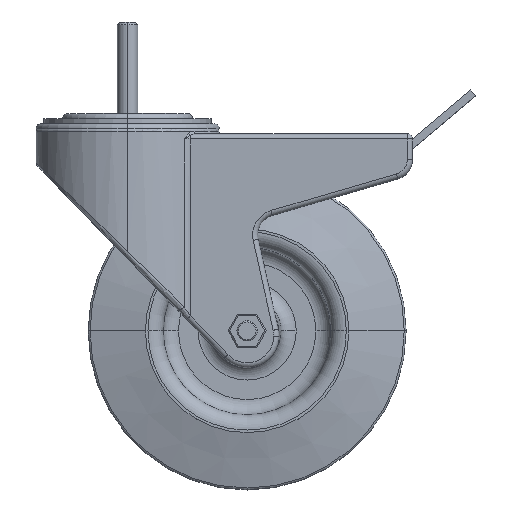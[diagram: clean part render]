
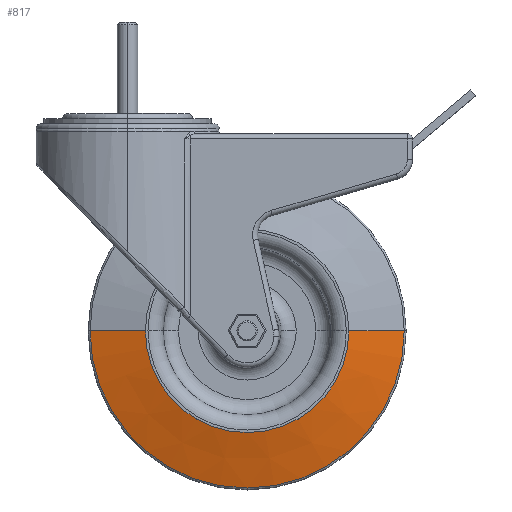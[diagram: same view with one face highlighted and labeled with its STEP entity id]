
A CAD part, top view. The second image highlights one B-rep face of the part: STEP entity #817.
In plain terms, the highlighted conical face has half-angle 74.525 degrees and reference radius 61.767 mm.
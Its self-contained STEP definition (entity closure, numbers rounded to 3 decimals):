
#191 = DIRECTION ( 'NONE',  ( 0., 0., -1. ) ) ;
#347 = AXIS2_PLACEMENT_3D ( 'NONE', #1570, #1038, #4577 ) ;
#539 = CARTESIAN_POINT ( 'NONE',  ( 43., -71.442, 55. ) ) ;
#817 = ADVANCED_FACE ( 'NONE', ( #5223 ), #3766, .T. ) ;
#880 = CARTESIAN_POINT ( 'NONE',  ( 144.767, -71.442, 48.974 ) ) ;
#959 = CARTESIAN_POINT ( 'NONE',  ( 83., -71.442, 48.974 ) ) ;
#1038 = DIRECTION ( 'NONE',  ( 0., 0., 1. ) ) ;
#1066 = EDGE_CURVE ( 'NONE', #3743, #2066, #2837, .T. ) ;
#1285 = DIRECTION ( 'NONE',  ( 0.964, 0., -0.267 ) ) ;
#1363 = DIRECTION ( 'NONE',  ( 0., 0., 1. ) ) ;
#1440 = CIRCLE ( 'NONE', #347, 40. ) ;
#1485 = AXIS2_PLACEMENT_3D ( 'NONE', #2259, #191, #4831 ) ;
#1570 = CARTESIAN_POINT ( 'NONE',  ( 83., -71.442, 55. ) ) ;
#1727 = CARTESIAN_POINT ( 'NONE',  ( 123., -71.442, 55. ) ) ;
#1941 = DIRECTION ( 'NONE',  ( -0.964, 0., -0.267 ) ) ;
#1966 = DIRECTION ( 'NONE',  ( 1., 0., 0. ) ) ;
#2066 = VERTEX_POINT ( 'NONE', #3211 ) ;
#2259 = CARTESIAN_POINT ( 'NONE',  ( 83., -71.442, 48.974 ) ) ;
#2837 = LINE ( 'NONE', #2846, #6328 ) ;
#2846 = CARTESIAN_POINT ( 'NONE',  ( 21.233, -71.442, 48.974 ) ) ;
#2981 = ORIENTED_EDGE ( 'NONE', *, *, #3255, .F. ) ;
#3198 = LINE ( 'NONE', #4321, #5367 ) ;
#3211 = CARTESIAN_POINT ( 'NONE',  ( 21.233, -71.442, 48.974 ) ) ;
#3255 = EDGE_CURVE ( 'NONE', #4490, #4357, #3198, .T. ) ;
#3707 = ORIENTED_EDGE ( 'NONE', *, *, #5448, .T. ) ;
#3743 = VERTEX_POINT ( 'NONE', #539 ) ;
#3766 = CONICAL_SURFACE ( 'NONE', #1485, 61.767, 1.301 ) ;
#4028 = EDGE_LOOP ( 'NONE', ( #2981, #5082, #5811, #3707 ) ) ;
#4321 = CARTESIAN_POINT ( 'NONE',  ( 144.767, -71.442, 48.974 ) ) ;
#4357 = VERTEX_POINT ( 'NONE', #880 ) ;
#4490 = VERTEX_POINT ( 'NONE', #1727 ) ;
#4577 = DIRECTION ( 'NONE',  ( 1., 0., 0. ) ) ;
#4831 = DIRECTION ( 'NONE',  ( -1., 0., 0. ) ) ;
#5082 = ORIENTED_EDGE ( 'NONE', *, *, #6068, .F. ) ;
#5223 = FACE_OUTER_BOUND ( 'NONE', #4028, .T. ) ;
#5356 = AXIS2_PLACEMENT_3D ( 'NONE', #959, #1363, #1966 ) ;
#5367 = VECTOR ( 'NONE', #1285, 1000. ) ;
#5448 = EDGE_CURVE ( 'NONE', #2066, #4357, #6200, .T. ) ;
#5811 = ORIENTED_EDGE ( 'NONE', *, *, #1066, .T. ) ;
#6068 = EDGE_CURVE ( 'NONE', #3743, #4490, #1440, .T. ) ;
#6200 = CIRCLE ( 'NONE', #5356, 61.767 ) ;
#6328 = VECTOR ( 'NONE', #1941, 1000. ) ;
